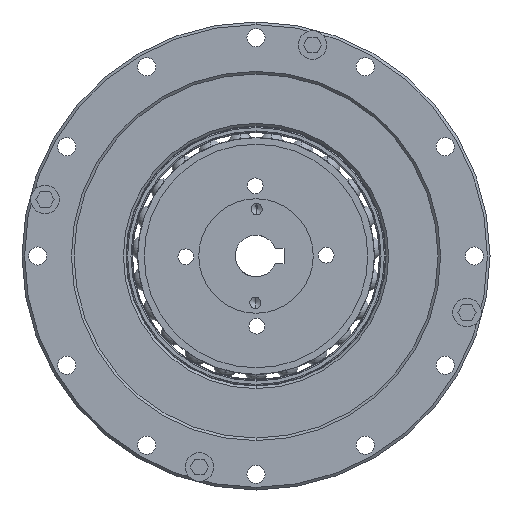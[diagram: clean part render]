
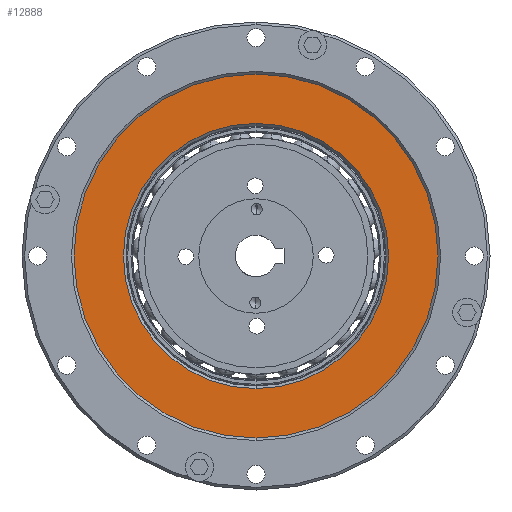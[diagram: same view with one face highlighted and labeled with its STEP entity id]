
A CAD part, left-side view. The second image highlights one B-rep face of the part: STEP entity #12888.
In plain terms, the highlighted planar face has unit normal (-1, 0, 0).
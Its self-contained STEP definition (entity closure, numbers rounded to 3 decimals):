
#8503=CARTESIAN_POINT('',(2.6,0.,0.));
#8504=DIRECTION('',(-1.,0.,0.));
#8505=DIRECTION('',(0.,0.,1.));
#8506=AXIS2_PLACEMENT_3D('',#8503,#8504,#8505);
#8511=CARTESIAN_POINT('',(2.6,0.,0.));
#8512=DIRECTION('',(-1.,0.,0.));
#8513=DIRECTION('',(0.,0.,-1.));
#8514=AXIS2_PLACEMENT_3D('',#8511,#8512,#8513);
#8519=CARTESIAN_POINT('',(2.6,0.,0.));
#8520=DIRECTION('',(1.,0.,0.));
#8521=DIRECTION('',(0.,0.,-1.));
#8522=AXIS2_PLACEMENT_3D('',#8519,#8520,#8521);
#8527=CARTESIAN_POINT('',(2.6,0.,0.));
#8528=DIRECTION('',(1.,0.,0.));
#8529=DIRECTION('',(0.,0.,1.));
#8530=AXIS2_PLACEMENT_3D('',#8527,#8528,#8529);
#10961=CARTESIAN_POINT('',(2.6,0.,35.));
#10963=VERTEX_POINT('',#10961);
#10965=CARTESIAN_POINT('',(2.6,0.,-35.));
#10967=VERTEX_POINT('',#10965);
#10977=CARTESIAN_POINT('',(2.6,0.,25.5));
#10978=VERTEX_POINT('',#10977);
#10979=CARTESIAN_POINT('',(2.6,0.,-25.5));
#10980=VERTEX_POINT('',#10979);
#12873=CARTESIAN_POINT('',(2.6,35.,0.));
#12874=DIRECTION('',(1.,0.,0.));
#12875=DIRECTION('',(0.,0.,-1.));
#12876=AXIS2_PLACEMENT_3D('',#12873,#12874,#12875);
#12877=PLANE('',#12876);
#12878=ORIENTED_EDGE('',*,*,#12867,.F.);
#12879=ORIENTED_EDGE('',*,*,#12853,.F.);
#12880=EDGE_LOOP('',(#12878,#12879));
#12881=FACE_OUTER_BOUND('',#12880,.F.);
#12883=ORIENTED_EDGE('',*,*,#12882,.F.);
#12885=ORIENTED_EDGE('',*,*,#12884,.F.);
#12886=EDGE_LOOP('',(#12883,#12885));
#12887=FACE_BOUND('',#12886,.F.);
#8507=CIRCLE('',#8506,35.);
#8515=CIRCLE('',#8514,35.);
#8523=CIRCLE('',#8522,25.5);
#8531=CIRCLE('',#8530,25.5);
#12853=EDGE_CURVE('',#10967,#10963,#8515,.T.);
#12867=EDGE_CURVE('',#10963,#10967,#8507,.T.);
#12882=EDGE_CURVE('',#10980,#10978,#8523,.T.);
#12884=EDGE_CURVE('',#10978,#10980,#8531,.T.);
#12888=ADVANCED_FACE('',(#12881,#12887),#12877,.F.);
